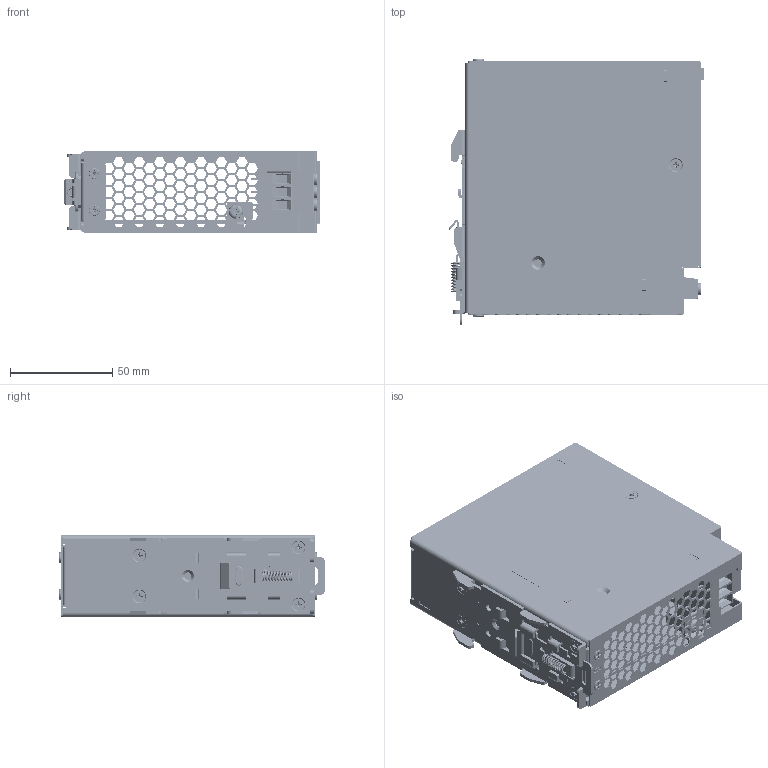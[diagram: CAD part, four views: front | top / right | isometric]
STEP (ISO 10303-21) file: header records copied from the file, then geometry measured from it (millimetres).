
FILE_DESCRIPTION((''),'2;1');
FILE_NAME('DRP-24V120W1CAN_ASM','2018-03-27T',('Nut.Phor'),(''),'PRO/ENGINEER BY PARAMETRIC TECHNOLOGY CORPORATION, 2010180','PRO/ENGINEER BY PARAMETRIC TECHNOLOGY CORPORATION, 2010180','');
FILE_SCHEMA(('CONFIG_CONTROL_DESIGN','SHAPE_APPEARANCE_LAYERS_GROUPS'));
Products named in the file (31): 330322440000_CASE-CHASSIS; 346654410203; 346008810000; 346202620000; ASSY_BASE_NEW_V2_ASM; MAINBOARD_X2_AF0; 346142640000; EE_LED_2301421631_GREEN; 3352085700; RES_VR-2; OUTPUT_DC-BOARD; BMB420-508MA02; BMB420U103; BMB420P201; ASSEM1_ASM; MB420-508MA02_ASM; 3350940600_1; OUTPUT_ADC-076_ASM; INPUT_DCT-1994; MH150-635M804A302_A2; MH150-635M804A302_A3; MH150-635M804A302_A4_AF0; MH150-635M803_INPUT-CONNECTOR_ASM; INPUT_ADC-074_ASM; ASSY_MAINBOARD_ASM; 3103300600-1; 3100000600-1; 331676930000_CASE_COVER; 3105319000_NL; 326875980000; DRP-24V120W1CAN_ASM
Assembly tree (44 placements, depth 6):
  DRP-24V120W1CAN_ASM
    330322440000_CASE-CHASSIS
    ASSY_BASE_NEW_V2_ASM
      346654410203
      346008810000
      346202620000
    ASSY_MAINBOARD_ASM
      MAINBOARD_X2_AF0
      346142640000
      EE_LED_2301421631_GREEN
      3352085700
      RES_VR-2
      OUTPUT_ADC-076_ASM
        OUTPUT_DC-BOARD
        MB420-508MA02_ASM
          ASSEM1_ASM  x3
            BMB420-508MA02
            BMB420U103
            BMB420P201
        3350940600_1
      INPUT_ADC-074_ASM
        INPUT_DCT-1994
        MH150-635M803_INPUT-CONNECTOR_ASM
          MH150-635M804A302_A2
          MH150-635M804A302_A3  x2
          MH150-635M804A302_A4_AF0
    3103300600-1
    3100000600-1  x7
    331676930000_CASE_COVER
    3105319000_NL  x4
    326875980000
Bounding box: 125.14 x 130 x 40 mm (x, y, z)
Volume: 99359.3 mm3; surface area: 155278.1 mm2
Topology: 45 solids, 45 shells, 7430 faces, 20119 edges, 12964 vertices
Faces by surface type: plane 4746, cylinder 1193, extrusion 1044, bspline 252, cone 102, torus 93
Entity records: 223497 total; most frequent: CARTESIAN_POINT 56269, ORIENTED_EDGE 29028, DIRECTION 23854, EDGE_CURVE 14514, VECTOR 11864, LINE 11090, PRESENTATION_STYLE_ASSIGNMENT 10565, STYLED_ITEM 10376
